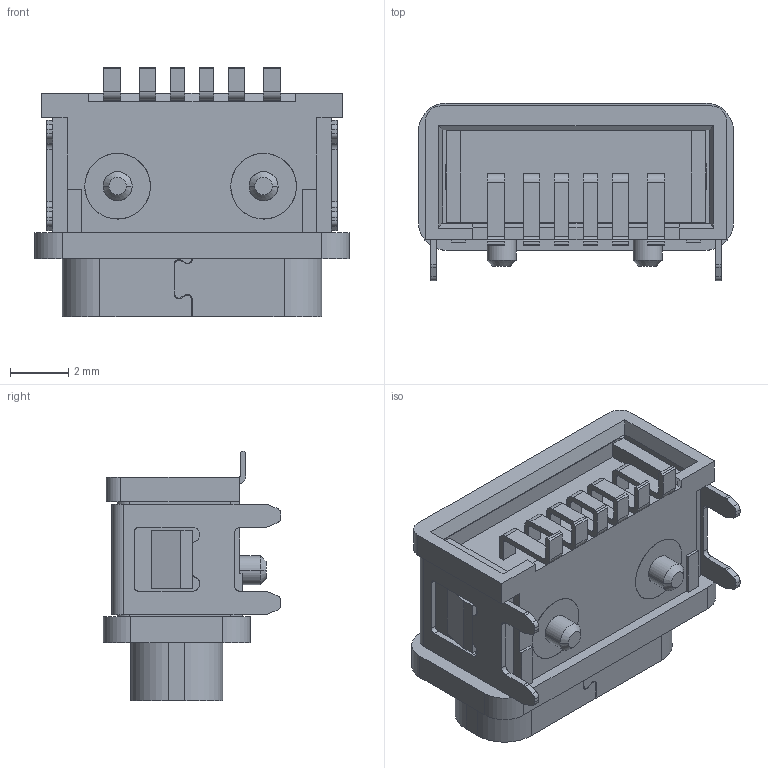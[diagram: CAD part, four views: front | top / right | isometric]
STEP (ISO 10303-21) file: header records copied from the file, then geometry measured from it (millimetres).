
FILE_DESCRIPTION((''),'2;1');
FILE_NAME('2023','2023-03-30T08:48:22',('Administrator'),(''),'CREO PARAMETRIC BY PTC INC, 2019080','CREO PARAMETRIC BY PTC INC, 2019080','');
FILE_SCHEMA(('CONFIG_CONTROL_DESIGN'));
Products named in the file (1): 2023
Bounding box: 10.84 x 6.11 x 8.6 mm (x, y, z)
Volume: 119.4 mm3; surface area: 4013.7 mm2
Topology: 4 solids, 191 shells, 1930 faces, 9350 edges, 7410 vertices
Faces by surface type: plane 1450, cylinder 416, cone 64
Entity records: 96947 total; most frequent: CARTESIAN_POINT 25532, ORIENTED_EDGE 13548, DIRECTION 12942, EDGE_CURVE 9350, VERTEX_POINT 7410, VECTOR 7288, LINE 7288, AXIS2_PLACEMENT_3D 2827
